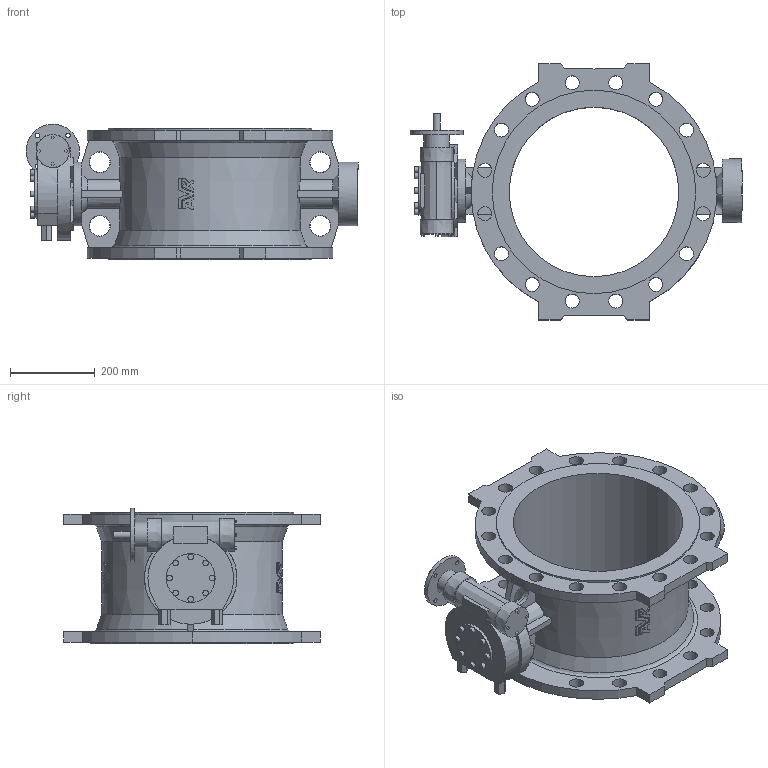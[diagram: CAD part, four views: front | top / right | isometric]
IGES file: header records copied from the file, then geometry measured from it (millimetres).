
Start section: SolidWorks IGES file using analytic representation for surfaces
Global section: file name: \\avksan2\techshare\PBM outline export from Enovia\O_756_102_DN400_1XX_AA0_igs.igs; native system: SolidWorks 2012; preprocessor: SolidWorks 2012; author: pbm; date: 160309.115844; units: millimetre
Bounding box: 783 x 604 x 319.6 mm (x, y, z)
Surface area: 1739145 mm2 (no closed solid volume)
Topology: 0 solids, 0 shells, 431 faces, 3276 edges, 3165 vertices
Faces by surface type: bspline 317, revolution 114
